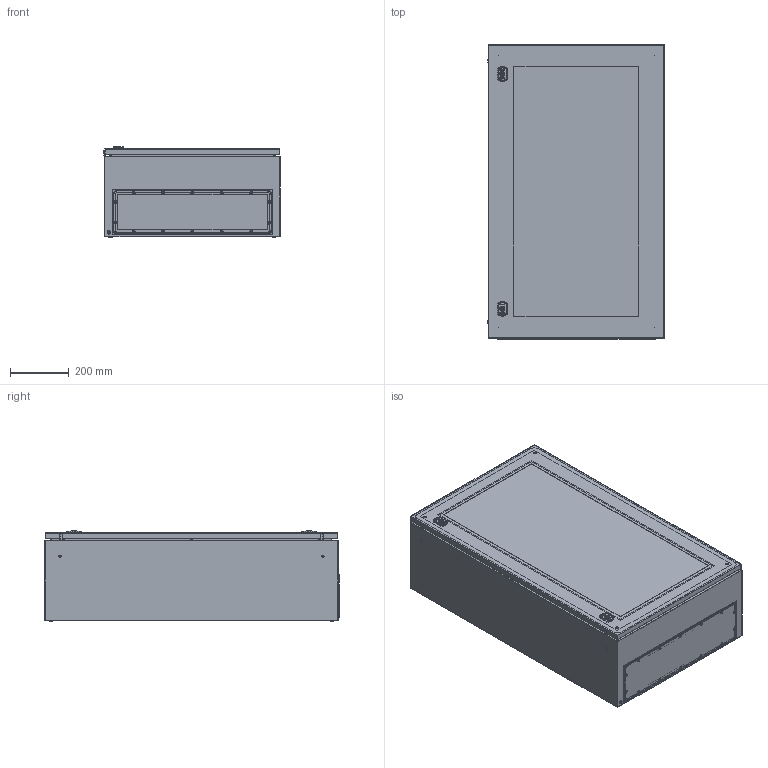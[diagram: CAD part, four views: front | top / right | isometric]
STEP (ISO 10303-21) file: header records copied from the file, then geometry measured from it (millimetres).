
FILE_DESCRIPTION(('Open CASCADE Model'),'2;1');
FILE_NAME('Open CASCADE Shape Model','2025-05-23T14:15:05',('Author'),( 'Open CASCADE'),'Open CASCADE STEP processor 7.8','Open CASCADE 7.8' ,'Unknown');
FILE_SCHEMA(('AUTOMOTIVE_DESIGN { 1 0 10303 214 1 1 1 1 }'));
Length unit declared in the file: millimetre
Products named in the file (39): Compound1; Compound2; Compound3; Compound4; Solid1; Solid2; Solid3; Compound5; Solid4; Solid5; Solid6; Solid7; Solid8; Solid9; Compound6; Solid10; Solid11; Solid12; Solid13; Compound7; Compound8; Solid14; Solid15; Solid16; Compound9; Solid17; Solid18; Solid19; Solid20; Solid21; Solid22; Solid23; Solid24; Solid25; Solid26; Solid27; Solid28; Solid29; Solid30
Assembly tree (77 placements, depth 5):
  Compound1
    Compound2
      Compound3
        Compound4
          Solid1
          Solid2  x4
          Solid3  x4
        Compound5  x3
          Solid4
          Solid5
        Solid6  x3
        Solid7  x3
        Solid8  x3
        Solid9  x4
      Compound6
        Solid10
        Solid11
      Solid12  x3
      Solid13  x4
      Compound7
        Compound8
          Solid14
          Solid15  x3
          Solid3  x4
        Solid16
        Compound9  x2
          Solid17
          Solid18
          Solid19
          Solid20
          Solid21
          Solid22
          Solid23
        Solid24
        Solid25
        Solid26  x2
      Solid27  x2
      Solid28
      Solid29  x4
    Solid30  x5
Bounding box: 602.8 x 1003.5 x 307.67 mm (x, y, z)
Volume: 6711804.7 mm3; surface area: 6041083.4 mm2
Topology: 79 solids, 79 shells, 5417 faces, 13730 edges, 8792 vertices
Faces by surface type: plane 2953, cylinder 1316, bspline 422, torus 358, cone 290, sphere 70, revolution 8
Entity records: 119230 total; most frequent: CARTESIAN_POINT 33802, ORIENTED_EDGE 17912, DIRECTION 16765, EDGE_CURVE 8956, LINE 6401, VECTOR 6401, VERTEX_POINT 5828, AXIS2_PLACEMENT_3D 5180
